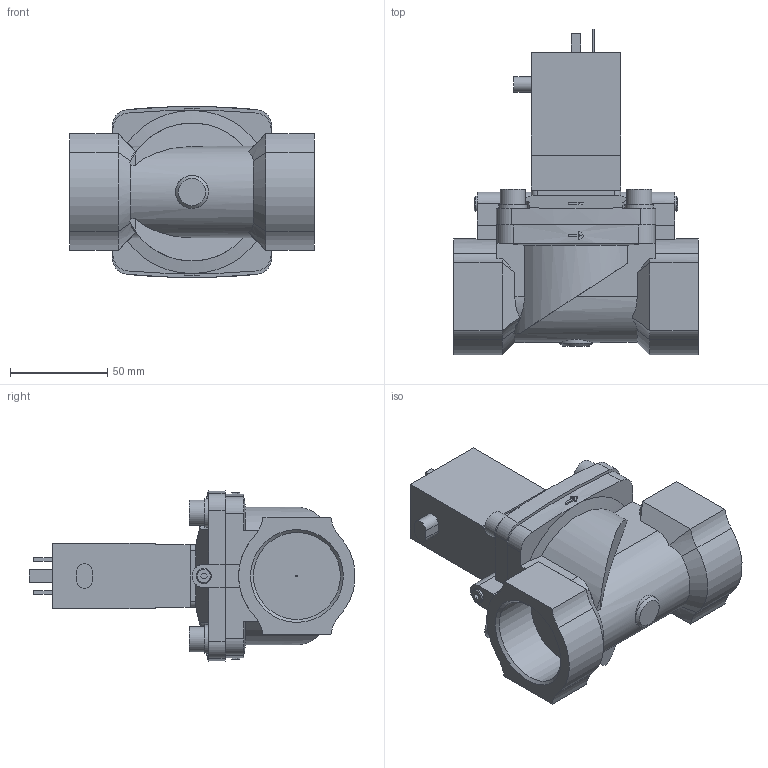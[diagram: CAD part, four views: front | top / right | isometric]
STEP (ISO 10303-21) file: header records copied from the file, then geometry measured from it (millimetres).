
FILE_DESCRIPTION( ( 'STEP AP214' ), '1' );
FILE_NAME( 'p:/temp/worker_11/temp/app_57_02018110103150974731569192d056f_000000_00_00_000000/format_0/5282-134449-Servo-assisted_2_2_way_diaphragm_valve.stp', '2018-11-01T02:15:10', ( '' ), ( '' ), ' ', 'PARTsolutions', ' ' );
FILE_SCHEMA( ( 'AUTOMOTIVE_DESIGN { 1 0 10303 214 1 1 1 1 }' ) );
Length unit declared in the file: millimetre
Products named in the file (4): 5282-134449-Servo-assisted 2/2 way diaphragm valve; HI_5282d-40MSOO2-2/2-Wege-Magnetventil_Deckel; HI_5282g-8840MS -2/2-Wege-Magnetventil_Gehaeuse; HI_0331-MS-3/2-way-Solenoid-Valve or 4-way-combination
Assembly tree (3 placements, depth 2):
  5282-134449-Servo-assisted 2/2 way diaphragm valve
    HI_5282d-40MSOO2-2/2-Wege-Magnetventil_Deckel
    HI_5282g-8840MS -2/2-Wege-Magnetventil_Gehaeuse
    HI_0331-MS-3/2-way-Solenoid-Valve or 4-way-combination
Bounding box: 126 x 167.9 x 88.1 mm (x, y, z)
Volume: 542699.2 mm3; surface area: 83449 mm2
Topology: 3 solids, 3 shells, 245 faces, 635 edges, 418 vertices
Faces by surface type: plane 155, cylinder 73, cone 17
Full cylindrical faces by diameter (mm): 1 x1, 7.8 x2, 13 x4, 14.8 x4, 17 x1, 44.845 x2
Entity records: 9633 total; most frequent: CARTESIAN_POINT 1609, DIRECTION 1252, ORIENTED_EDGE 1222, EDGE_CURVE 611, AXIS2_PLACEMENT_3D 433, VERTEX_POINT 413, LINE 386, VECTOR 386
